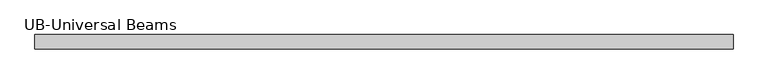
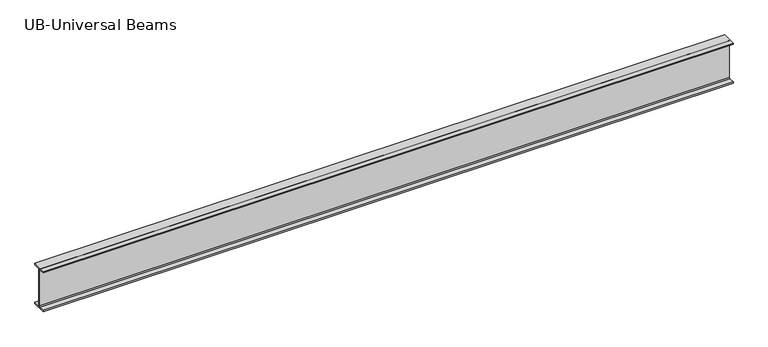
"""IFC4 building model written with IfcOpenShell, lengths in millimetres: beam geometry."""

from ifc_helpers import new_model, si_unit, point, frame, frame_2d, origin, place, context, project, spatial, polyline, circle_curve, trimmed, segment, composite_curve, outline, extrude, source, transform, mapped, element, save


def ub_universal_beams_b6dbdd7a(model_context):
    return source(origin(), model_context, "Body", "SweptSolid", [
        extrude(outline(composite_curve([segment(polyline([(76.9, -214.0), (76.9, -229.0), (-76.9, -229.0), (-76.9, -214.0), (-14.7, -214.0)]), True, "CONTINUOUS"), segment(trimmed(circle_curve(frame_2d((-14.7, -203.8)), 10.2), [point((-14.7, -214.0))], [point((-4.5, -203.8))], True, "CARTESIAN"), True, "CONTINUOUS"), segment(polyline([(-4.5, -203.8), (-4.5, 203.8)]), True, "CONTINUOUS"), segment(trimmed(circle_curve(frame_2d((-14.7, 203.8)), 10.2), [point((-4.5, 203.8))], [point((-14.7, 214.0))], True, "CARTESIAN"), True, "CONTINUOUS"), segment(polyline([(-14.7, 214.0), (-76.9, 214.0), (-76.9, 229.0), (76.9, 229.0), (76.9, 214.0), (14.7, 214.0)]), True, "CONTINUOUS"), segment(trimmed(circle_curve(frame_2d((14.7, 203.8)), 10.2), [point((14.7, 214.0))], [point((4.5, 203.8))], True, "CARTESIAN"), True, "CONTINUOUS"), segment(polyline([(4.5, 203.8), (4.5, -203.8)]), True, "CONTINUOUS"), segment(trimmed(circle_curve(frame_2d((14.7, -203.8)), 10.2), [point((4.5, -203.8))], [point((14.7, -214.0))], True, "CARTESIAN"), True, "CONTINUOUS"), segment(polyline([(14.7, -214.0), (76.9, -214.0)]), True, "CONTINUOUS")], self_intersect=False)), frame((-3729.4, 0.0, 0.0), z_axis=(1.0, 0.0, 0.0), x_axis=(0.0, 1.0, 0.0)), (0.0, 0.0, 1.0), 7444.4),
    ])


if __name__ == "__main__":
    model = new_model("IFC4")
    model_context = context("Model", 3, world=origin())
    ifc_project = project(units=[si_unit("LENGTHUNIT", "METRE", prefix="MILLI")], contexts=[model_context])
    site = spatial("IfcSite", under=ifc_project)
    building = spatial("IfcBuilding", under=site)
    placement = place(None, origin())
    ub_universal_beams_shape = ub_universal_beams_b6dbdd7a(model_context)
    element("IfcBeam", 1, ObjectType="UB-Universal Beams : UB 18\" x 6\" x 2 1/2\"", at=placement, inside=building, context=model_context, shape_type="MappedRepresentation", body=[
        mapped(ub_universal_beams_shape, transform((0.0, 0.0, 0.0), x_axis=(1.0, 0.0, 0.0), y_axis=(0.0, 1.0, 0.0), z_axis=(0.0, 0.0, 1.0))),
    ])
    save(model, "model.ifc")
